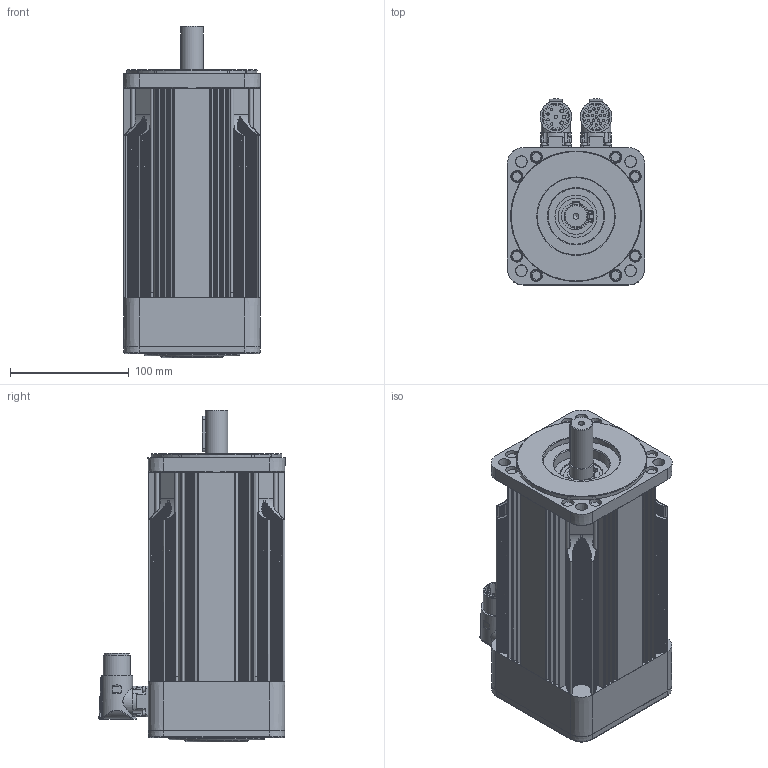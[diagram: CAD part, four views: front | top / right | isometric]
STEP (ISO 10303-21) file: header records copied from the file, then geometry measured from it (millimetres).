
FILE_DESCRIPTION( ( 'Unknown' ), '1' );
FILE_NAME( 'C:/Users/carpi/Desktop/step/Q0A535_9,2.stp', 'Unknown', ( 'Unknown' ), ( 'Unknown' ), 'PSStep 14.0', 'Unknown', ' ' );
FILE_SCHEMA( ( 'AUTOMOTIVE_DESIGN { 1 0 10303 214 1 1 1 1 }' ) );
Length unit declared in the file: millimetre
Products named in the file (26): Assem1; N33401; CUSC_20_52_15_6304_ZZ; A-Ela 20 P; N09403; Vite a brugola testa cil 8,8 -  M  4 x 12; N11401; Vite a brugola testa cil 8,8 -  M 2,5 x 8; CN M23 PAN-SEG AEDC 139 17 pin 90°o SpTcR; CN M23 PAN-POT BEDC 110 4+4 pin 90°o SpTcR; LI-PIA   6x6 x 30; N49400-9,2; N49400-9,2-oa0; N49400-9,2-oa1; N49400-9,2-oa2; N49400-9,2-oa3; N49400-9,2-oa4; N49400-9,2-oa5; N49400-9,2-oa6; N01404; N25400_9,2
Assembly tree (35 placements, depth 2):
  Assem1
    N33401
    CUSC_20_52_15_6304_ZZ
    CUSC_20_52_15_6304_ZZ
    CUSC_20_52_15_6304_ZZ
    CUSC_20_52_15_6304_ZZ
    CUSC_20_52_15_6304_ZZ
    CUSC_20_52_15_6304_ZZ
    A-Ela 20 P
    N09403
    Vite a brugola testa cil 8,8 -  M  4 x 12  x4
    N11401
    Vite a brugola testa cil 8,8 -  M 2,5 x 8  x8
    CN M23 PAN-SEG AEDC 139 17 pin 90°o SpTcR
    CN M23 PAN-POT BEDC 110 4+4 pin 90°o SpTcR
    LI-PIA   6x6 x 30
    N49400-9,2
    N49400-9,2-oa0
    N49400-9,2-oa1
    N49400-9,2-oa2
    N49400-9,2-oa3
    N49400-9,2-oa4
    N49400-9,2-oa5
    N49400-9,2-oa6
    N01404
    N25400_9,2
Bounding box: 115.45 x 156.78 x 279 mm (x, y, z)
Volume: 948988.2 mm3; surface area: 452047.3 mm2
Topology: 35 solids, 36 shells, 1991 faces, 5004 edges, 3145 vertices
Faces by surface type: cylinder 736, plane 612, torus 219, cone 203, bspline 174, sphere 47
Full cylindrical faces by diameter (mm): 2 x21, 2.013 x8, 2.5 x10, 2.7 x8, 3 x4, 3.242 x4, 3.3 x13, 3.4 x8, 4 x12, 4.7 x8, 5 x1, 7 x4, 8 x1, 8.5 x8, 17 x2, 19 x2, 19.8 x2, 20 x6, 21.3 x2, 23 x2, 23.9 x1, 24.5 x2, 24.7 x1, 25 x2, 30.24 x4, 41.76 x4, 44 x1, 47 x4, 49.5 x1, 50.2 x1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
Entity records: 81464 total; most frequent: CARTESIAN_POINT 27859, DIRECTION 8741, ORIENTED_EDGE 8578, EDGE_CURVE 4289, AXIS2_PLACEMENT_3D 3621, VERTEX_POINT 2852, EDGE_LOOP 2286, FACE_OUTER_BOUND 2010
